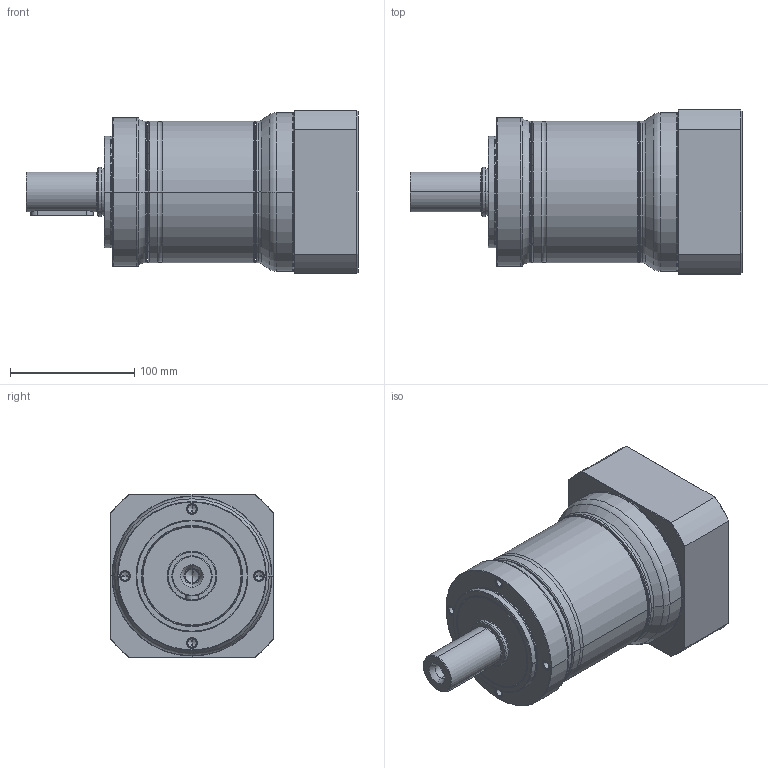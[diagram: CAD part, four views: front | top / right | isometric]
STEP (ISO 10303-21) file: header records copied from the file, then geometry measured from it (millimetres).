
FILE_DESCRIPTION((''),'2;1');
FILE_NAME('PE2-120_2ST_35-P0411800101_ASM','2016-05-03T',('d00435'),(''),'PRO/ENGINEER BY PARAMETRIC TECHNOLOGY CORPORATION, 2008410','PRO/ENGINEER BY PARAMETRIC TECHNOLOGY CORPORATION, 2008410','');
FILE_SCHEMA(('CONFIG_CONTROL_DESIGN'));
Length unit declared in the file: millimetre
Products named in the file (9): P1323410001; P0251400001; P1324400401; P0350401001; P0941404001; P0503800010; P0411800101; P1702600001; PE2-120_2ST_35-P0411800101_ASM
Assembly tree (8 placements, depth 2):
  PE2-120_2ST_35-P0411800101_ASM
    P1323410001
    P0251400001
    P1324400401
    P0350401001
    P0941404001
    P0503800010
    P0411800101
    P1702600001
Bounding box: 267.5 x 132 x 132 mm (x, y, z)
Volume: 1724111.3 mm3; surface area: 303245.1 mm2
Topology: 8 solids, 22 shells, 539 faces, 1201 edges, 708 vertices
Faces by surface type: cylinder 172, cone 148, torus 106, plane 97, bspline 16
Entity records: 19707 total; most frequent: CARTESIAN_POINT 7404, DIRECTION 2841, ORIENTED_EDGE 2274, AXIS2_PLACEMENT_3D 1229, EDGE_CURVE 1165, VERTEX_POINT 708, CIRCLE 679, EDGE_LOOP 621
